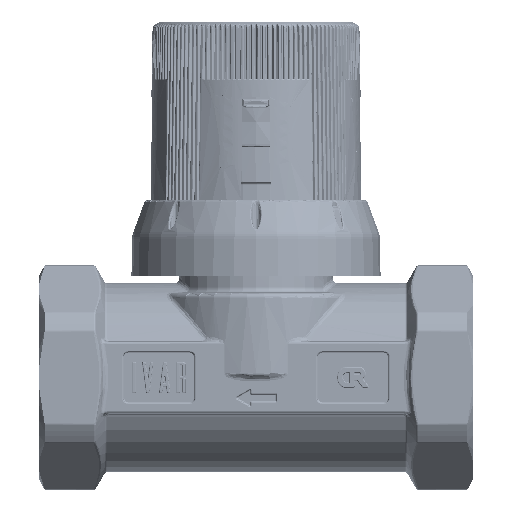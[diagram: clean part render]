
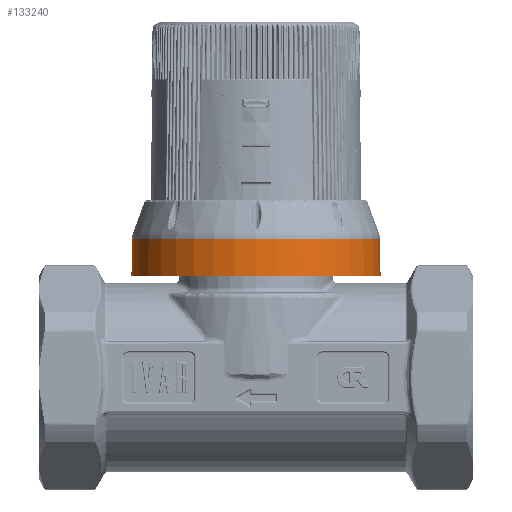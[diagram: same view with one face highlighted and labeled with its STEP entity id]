
A CAD part, top view. The second image highlights one B-rep face of the part: STEP entity #133240.
In plain terms, the highlighted conical face has half-angle 1 degrees and reference radius 24.319 mm.
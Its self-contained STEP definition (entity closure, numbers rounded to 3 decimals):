
#11048=FACE_OUTER_BOUND('',#19010,.T.);
#19010=EDGE_LOOP('',(#95835,#95836,#95837,#95838,#95839,#95840,#95841));
#28194=CIRCLE('',#142565,24.388);
#28195=CIRCLE('',#142566,24.388);
#28233=CIRCLE('',#142649,24.262);
#28234=CIRCLE('',#142650,24.262);
#28235=CIRCLE('',#142651,24.262);
#36150=LINE('',#238128,#42697);
#42697=VECTOR('',#163767,24.319);
#54773=VERTEX_POINT('',#237112);
#54774=VERTEX_POINT('',#237113);
#54798=VERTEX_POINT('',#238120);
#54799=VERTEX_POINT('',#238122);
#54800=VERTEX_POINT('',#238124);
#69673=EDGE_CURVE('',#54773,#54774,#28194,.T.);
#69674=EDGE_CURVE('',#54774,#54773,#28195,.T.);
#69753=EDGE_CURVE('',#54798,#54799,#28233,.T.);
#69754=EDGE_CURVE('',#54799,#54800,#28234,.T.);
#69755=EDGE_CURVE('',#54800,#54798,#28235,.T.);
#69756=EDGE_CURVE('',#54774,#54800,#36150,.T.);
#95835=ORIENTED_EDGE('',*,*,#69673,.T.);
#95836=ORIENTED_EDGE('',*,*,#69756,.T.);
#95837=ORIENTED_EDGE('',*,*,#69754,.F.);
#95838=ORIENTED_EDGE('',*,*,#69753,.F.);
#95839=ORIENTED_EDGE('',*,*,#69755,.F.);
#95840=ORIENTED_EDGE('',*,*,#69756,.F.);
#95841=ORIENTED_EDGE('',*,*,#69674,.T.);
#123855=CONICAL_SURFACE('',#142652,24.319,0.017);
#133240=ADVANCED_FACE('',(#11048),#123855,.T.);
#142565=AXIS2_PLACEMENT_3D('',#237114,#163591,#163592);
#142566=AXIS2_PLACEMENT_3D('',#237115,#163593,#163594);
#142649=AXIS2_PLACEMENT_3D('',#238123,#163759,#163760);
#142650=AXIS2_PLACEMENT_3D('',#238125,#163761,#163762);
#142651=AXIS2_PLACEMENT_3D('',#238126,#163763,#163764);
#142652=AXIS2_PLACEMENT_3D('',#238127,#163765,#163766);
#163591=DIRECTION('center_axis',(0.,1.,0.));
#163592=DIRECTION('ref_axis',(1.,0.,0.));
#163593=DIRECTION('center_axis',(0.,1.,0.));
#163594=DIRECTION('ref_axis',(1.,0.,0.));
#163759=DIRECTION('center_axis',(0.,1.,0.));
#163760=DIRECTION('ref_axis',(1.,0.,0.));
#163761=DIRECTION('center_axis',(0.,1.,0.));
#163762=DIRECTION('ref_axis',(1.,0.,0.));
#163763=DIRECTION('center_axis',(0.,1.,0.));
#163764=DIRECTION('ref_axis',(1.,0.,0.));
#163765=DIRECTION('center_axis',(0.,-1.,0.));
#163766=DIRECTION('ref_axis',(-1.,0.,0.));
#163767=DIRECTION('',(-0.017,1.,0.));
#237112=CARTESIAN_POINT('',(-24.388,19.9,0.));
#237113=CARTESIAN_POINT('',(24.388,19.9,0.));
#237114=CARTESIAN_POINT('Origin',(0.,19.9,
0.));
#237115=CARTESIAN_POINT('Origin',(0.,19.9,
0.));
#238120=CARTESIAN_POINT('',(0.,27.162,-24.262));
#238122=CARTESIAN_POINT('',(-24.262,27.162,0.));
#238123=CARTESIAN_POINT('Origin',(0.,27.162,
0.));
#238124=CARTESIAN_POINT('',(24.262,27.162,0.));
#238125=CARTESIAN_POINT('Origin',(0.,27.162,
0.));
#238126=CARTESIAN_POINT('Origin',(0.,27.162,
0.));
#238127=CARTESIAN_POINT('Origin',(0.,23.866,
0.));
#238128=CARTESIAN_POINT('',(24.319,23.866,0.));
